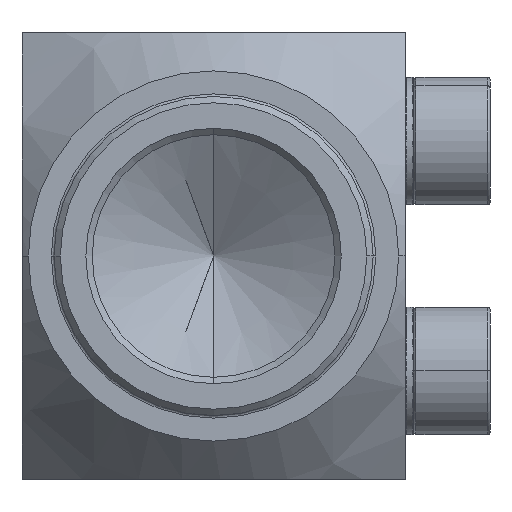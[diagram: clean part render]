
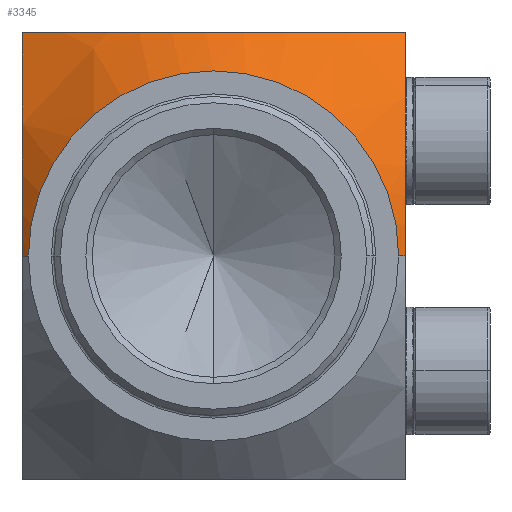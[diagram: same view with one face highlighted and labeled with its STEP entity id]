
A CAD part, front view. The second image highlights one B-rep face of the part: STEP entity #3345.
In plain terms, the highlighted conical face has half-angle 45 degrees and reference radius 23.5 mm.
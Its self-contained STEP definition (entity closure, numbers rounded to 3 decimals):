
#1 = CARTESIAN_POINT ( 'NONE',  ( -8.514, 104.953, 17.5 ) ) ;
#23 = LINE ( 'NONE', #6777, #5586 ) ;
#102 = CARTESIAN_POINT ( 'NONE',  ( -15., 100.585, 1.648 ) ) ;
#511 = ORIENTED_EDGE ( 'NONE', *, *, #4626, .F. ) ;
#600 = CARTESIAN_POINT ( 'NONE',  ( 15., 100.735, 2.87 ) ) ;
#693 = CARTESIAN_POINT ( 'NONE',  ( 4.65, 103.596, 17.5 ) ) ;
#735 = CARTESIAN_POINT ( 'NONE',  ( -10.345, 105.822, 17.5 ) ) ;
#846 = CARTESIAN_POINT ( 'NONE',  ( -15., 100.5, 0.411 ) ) ;
#1047 = VERTEX_POINT ( 'NONE', #6815 ) ;
#1154 = DIRECTION ( 'NONE',  ( 0., 1., 0. ) ) ;
#1291 = LINE ( 'NONE', #3021, #4938 ) ;
#1344 = CARTESIAN_POINT ( 'NONE',  ( 15., 101.504, 5.63 ) ) ;
#1420 = CARTESIAN_POINT ( 'NONE',  ( 15., 108.549, 17.5 ) ) ;
#1451 = CARTESIAN_POINT ( 'NONE',  ( 1.321, 102.997, 17.5 ) ) ;
#1476 = CARTESIAN_POINT ( 'NONE',  ( -12.725, 107.115, 17.5 ) ) ;
#1554 = CARTESIAN_POINT ( 'NONE',  ( -15., 106.605, 14.881 ) ) ;
#1622 = CARTESIAN_POINT ( 'NONE',  ( 15., 100.5, 0. ) ) ;
#2063 = CARTESIAN_POINT ( 'NONE',  ( 15., 102.445, 7.911 ) ) ;
#2165 = CARTESIAN_POINT ( 'NONE',  ( -0.717, 103.011, 17.5 ) ) ;
#2203 = CARTESIAN_POINT ( 'NONE',  ( -15., 108.549, 17.5 ) ) ;
#2207 = CIRCLE ( 'NONE', #3729, 14.5 ) ;
#2267 = CARTESIAN_POINT ( 'NONE',  ( -15., 103.943, 10.799 ) ) ;
#2312 = ORIENTED_EDGE ( 'NONE', *, *, #5351, .T. ) ;
#2530 = AXIS2_PLACEMENT_3D ( 'NONE', #4824, #1154, #6297 ) ;
#2801 = CARTESIAN_POINT ( 'NONE',  ( 15., 103.943, 10.799 ) ) ;
#2904 = CARTESIAN_POINT ( 'NONE',  ( -1.742, 103.083, 17.5 ) ) ;
#3011 = CARTESIAN_POINT ( 'NONE',  ( -15., 102.445, 7.911 ) ) ;
#3021 = CARTESIAN_POINT ( 'NONE',  ( 23.5, 109., 0. ) ) ;
#3111 = ORIENTED_EDGE ( 'NONE', *, *, #4023, .T. ) ;
#3345 = ADVANCED_FACE ( 'NONE', ( #7661 ), #3582, .T. ) ;
#3455 = VERTEX_POINT ( 'NONE', #4193 ) ;
#3535 = CARTESIAN_POINT ( 'NONE',  ( 15., 106.605, 14.881 ) ) ;
#3582 = CONICAL_SURFACE ( 'NONE', #2530, 23.5, 0.785 ) ;
#3611 = DIRECTION ( 'NONE',  ( 0., -1., 0. ) ) ;
#3616 = CARTESIAN_POINT ( 'NONE',  ( 10.331, 105.798, 17.5 ) ) ;
#3638 = CARTESIAN_POINT ( 'NONE',  ( -3.419, 103.32, 17.5 ) ) ;
#3674 = EDGE_CURVE ( 'NONE', #3455, #7439, #5339, .T. ) ;
#3728 = CARTESIAN_POINT ( 'NONE',  ( -15., 108.549, 17.5 ) ) ;
#3729 = AXIS2_PLACEMENT_3D ( 'NONE', #7968, #3611, #8712 ) ;
#3752 = CARTESIAN_POINT ( 'NONE',  ( -15., 101.504, 5.63 ) ) ;
#3758 = DIRECTION ( 'NONE',  ( 0.707, 0.707, 0. ) ) ;
#4023 = EDGE_CURVE ( 'NONE', #6359, #3455, #9007, .T. ) ;
#4193 = CARTESIAN_POINT ( 'NONE',  ( -15., 108.549, 17.5 ) ) ;
#4234 = CARTESIAN_POINT ( 'NONE',  ( 15., 100.5, 0. ) ) ;
#4279 = CARTESIAN_POINT ( 'NONE',  ( 15., 108.549, 17.5 ) ) ;
#4339 = CARTESIAN_POINT ( 'NONE',  ( 7.244, 104.431, 17.5 ) ) ;
#4376 = CARTESIAN_POINT ( 'NONE',  ( -6.651, 104.187, 17.5 ) ) ;
#4479 = CARTESIAN_POINT ( 'NONE',  ( -15., 100.735, 2.87 ) ) ;
#4556 = CARTESIAN_POINT ( 'NONE',  ( 15., 108.549, 17.5 ) ) ;
#4626 = EDGE_CURVE ( 'NONE', #1047, #7439, #23, .T. ) ;
#4824 = CARTESIAN_POINT ( 'NONE',  ( 0., 109., 0. ) ) ;
#4825 = VERTEX_POINT ( 'NONE', #5570 ) ;
#4938 = VECTOR ( 'NONE', #3758, 1000. ) ;
#4968 = CARTESIAN_POINT ( 'NONE',  ( 15., 100.585, 1.648 ) ) ;
#5070 = CARTESIAN_POINT ( 'NONE',  ( 5.312, 103.778, 17.5 ) ) ;
#5104 = CARTESIAN_POINT ( 'NONE',  ( -9.128, 105.23, 17.5 ) ) ;
#5212 = CARTESIAN_POINT ( 'NONE',  ( -15., 100.517, 0.827 ) ) ;
#5339 = B_SPLINE_CURVE_WITH_KNOTS ( 'NONE', 3,
 ( #3728, #8822, #1554, #6650, #2267, #7374, #3011, #8110, #3752, #8853, #4479, #102, #5212, #846, #5936 ),
 .UNSPECIFIED., .F., .F.,
 ( 4, 2, 2, 2, 2, 1, 2, 4 ),
 ( 0.062, 0.067, 0.072, 0.074, 0.077, 0.079, 0.08, 0.082 ),
 .UNSPECIFIED. ) ;
#5351 = EDGE_CURVE ( 'NONE', #9428, #6359, #6808, .T. ) ;
#5408 = EDGE_CURVE ( 'NONE', #4825, #1047, #2207, .T. ) ;
#5525 = EDGE_CURVE ( 'NONE', #4825, #9428, #1291, .T. ) ;
#5570 = CARTESIAN_POINT ( 'NONE',  ( 14.5, 100., 0. ) ) ;
#5586 = VECTOR ( 'NONE', #7493, 1000. ) ;
#5686 = CARTESIAN_POINT ( 'NONE',  ( 15., 101.022, 4.062 ) ) ;
#5799 = CARTESIAN_POINT ( 'NONE',  ( 2.661, 103.154, 17.5 ) ) ;
#5829 = CARTESIAN_POINT ( 'NONE',  ( -10.948, 106.136, 17.5 ) ) ;
#5936 = CARTESIAN_POINT ( 'NONE',  ( -15., 100.5, 0. ) ) ;
#6297 = DIRECTION ( 'NONE',  ( -1., 0., 0. ) ) ;
#6314 = ORIENTED_EDGE ( 'NONE', *, *, #5408, .F. ) ;
#6359 = VERTEX_POINT ( 'NONE', #4556 ) ;
#6445 = CARTESIAN_POINT ( 'NONE',  ( 15., 101.797, 6.406 ) ) ;
#6543 = CARTESIAN_POINT ( 'NONE',  ( -0.376, 103.001, 17.5 ) ) ;
#6573 = CARTESIAN_POINT ( 'NONE',  ( -13.874, 107.816, 17.5 ) ) ;
#6650 = CARTESIAN_POINT ( 'NONE',  ( -15., 104.797, 12.18 ) ) ;
#6777 = CARTESIAN_POINT ( 'NONE',  ( -23.5, 109., 0. ) ) ;
#6808 = B_SPLINE_CURVE_WITH_KNOTS ( 'NONE', 3,
 ( #4234, #8616, #9331, #4968, #600, #5686, #1344, #6445, #2063, #7150, #2801, #7898, #3535, #8651, #4279 ),
 .UNSPECIFIED., .F., .F.,
 ( 4, 2, 1, 2, 2, 2, 2, 4 ),
 ( 0.037, 0.038, 0.039, 0.042, 0.044, 0.047, 0.052, 0.056 ),
 .UNSPECIFIED. ) ;
#6815 = CARTESIAN_POINT ( 'NONE',  ( -14.5, 100., 0. ) ) ;
#7150 = CARTESIAN_POINT ( 'NONE',  ( 15., 102.802, 8.644 ) ) ;
#7267 = CARTESIAN_POINT ( 'NONE',  ( -1.4, 103.053, 17.5 ) ) ;
#7374 = CARTESIAN_POINT ( 'NONE',  ( -15., 102.802, 8.644 ) ) ;
#7439 = VERTEX_POINT ( 'NONE', #8183 ) ;
#7493 = DIRECTION ( 'NONE',  ( -0.707, 0.707, 0. ) ) ;
#7661 = FACE_OUTER_BOUND ( 'NONE', #7791, .T. ) ;
#7791 = EDGE_LOOP ( 'NONE', ( #6314, #9075, #2312, #3111, #8007, #511 ) ) ;
#7898 = CARTESIAN_POINT ( 'NONE',  ( 15., 104.797, 12.18 ) ) ;
#7910 = CARTESIAN_POINT ( 'NONE',  ( 13.862, 107.809, 17.5 ) ) ;
#7968 = CARTESIAN_POINT ( 'NONE',  ( 0., 100., 0. ) ) ;
#7972 = CARTESIAN_POINT ( 'NONE',  ( 12.701, 107.101, 17.5 ) ) ;
#8001 = CARTESIAN_POINT ( 'NONE',  ( -2.755, 103.203, 17.5 ) ) ;
#8007 = ORIENTED_EDGE ( 'NONE', *, *, #3674, .T. ) ;
#8110 = CARTESIAN_POINT ( 'NONE',  ( -15., 101.797, 6.406 ) ) ;
#8183 = CARTESIAN_POINT ( 'NONE',  ( -15., 100.5, 0. ) ) ;
#8616 = CARTESIAN_POINT ( 'NONE',  ( 15., 100.5, 0.411 ) ) ;
#8651 = CARTESIAN_POINT ( 'NONE',  ( 15., 107.562, 16.2 ) ) ;
#8712 = DIRECTION ( 'NONE',  ( -1., 0., 0. ) ) ;
#8721 = CARTESIAN_POINT ( 'NONE',  ( 9.12, 105.201, 17.5 ) ) ;
#8756 = CARTESIAN_POINT ( 'NONE',  ( -5.382, 103.764, 17.5 ) ) ;
#8822 = CARTESIAN_POINT ( 'NONE',  ( -15., 107.562, 16.2 ) ) ;
#8853 = CARTESIAN_POINT ( 'NONE',  ( -15., 101.022, 4.062 ) ) ;
#9007 = B_SPLINE_CURVE_WITH_KNOTS ( 'NONE', 3,
 ( #1420, #7910, #7972, #3616, #8721, #4339, #9435, #5070, #693, #5799, #1451, #6543, #2165, #7267, #2904, #8001, #3638, #8756, #4376, #1, #5104, #735, #5829, #1476, #6573, #2203 ),
 .UNSPECIFIED., .F., .F.,
 ( 4, 2, 2, 2, 2, 2, 2, 2, 2, 2, 2, 2, 4 ),
 ( 0.046, 0.05, 0.054, 0.056, 0.058, 0.062, 0.063, 0.064, 0.066, 0.071, 0.073, 0.075, 0.079 ),
 .UNSPECIFIED. ) ;
#9075 = ORIENTED_EDGE ( 'NONE', *, *, #5525, .T. ) ;
#9331 = CARTESIAN_POINT ( 'NONE',  ( 15., 100.517, 0.827 ) ) ;
#9428 = VERTEX_POINT ( 'NONE', #1622 ) ;
#9435 = CARTESIAN_POINT ( 'NONE',  ( 6.608, 104.196, 17.5 ) ) ;
